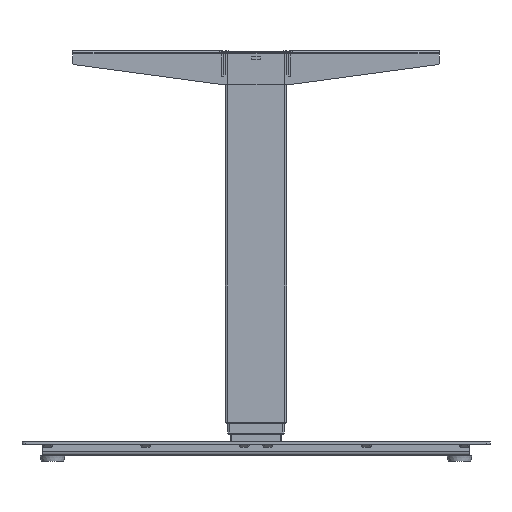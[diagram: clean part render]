
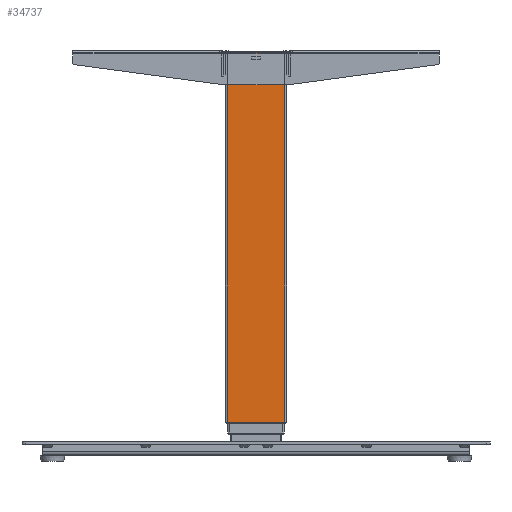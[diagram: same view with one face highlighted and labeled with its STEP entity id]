
A CAD part, front view. The second image highlights one B-rep face of the part: STEP entity #34737.
In plain terms, the highlighted planar face has unit normal (0, -1, 0).
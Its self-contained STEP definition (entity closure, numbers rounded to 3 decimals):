
#2586=CIRCLE('',#38947,0.5);
#2587=CIRCLE('',#38948,0.5);
#2588=CIRCLE('',#38949,0.5);
#2589=CIRCLE('',#38950,0.5);
#9697=ORIENTED_EDGE('',*,*,#16199,.T.);
#9698=ORIENTED_EDGE('',*,*,#16158,.F.);
#9699=ORIENTED_EDGE('',*,*,#16196,.F.);
#9700=ORIENTED_EDGE('',*,*,#16195,.F.);
#9701=ORIENTED_EDGE('',*,*,#16200,.F.);
#9702=ORIENTED_EDGE('',*,*,#16201,.F.);
#9703=ORIENTED_EDGE('',*,*,#16202,.F.);
#9704=ORIENTED_EDGE('',*,*,#16203,.F.);
#9705=ORIENTED_EDGE('',*,*,#16204,.F.);
#9706=ORIENTED_EDGE('',*,*,#16205,.F.);
#9707=ORIENTED_EDGE('',*,*,#16206,.F.);
#9708=ORIENTED_EDGE('',*,*,#16207,.F.);
#16158=EDGE_CURVE('',#21218,#21217,#25249,.T.);
#16195=EDGE_CURVE('',#21252,#21245,#25270,.T.);
#16196=EDGE_CURVE('',#21245,#21218,#25271,.T.);
#16199=EDGE_CURVE('',#21252,#21217,#25273,.T.);
#16200=EDGE_CURVE('',#21253,#21254,#25274,.T.);
#16201=EDGE_CURVE('',#21255,#21253,#2586,.T.);
#16202=EDGE_CURVE('',#21256,#21255,#25275,.T.);
#16203=EDGE_CURVE('',#21257,#21256,#2587,.T.);
#16204=EDGE_CURVE('',#21258,#21257,#25276,.T.);
#16205=EDGE_CURVE('',#21259,#21258,#2588,.T.);
#16206=EDGE_CURVE('',#21260,#21259,#25277,.T.);
#16207=EDGE_CURVE('',#21254,#21260,#2589,.T.);
#21217=VERTEX_POINT('',#61215);
#21218=VERTEX_POINT('',#61217);
#21245=VERTEX_POINT('',#61279);
#21252=VERTEX_POINT('',#61292);
#21253=VERTEX_POINT('',#61301);
#21254=VERTEX_POINT('',#61302);
#21255=VERTEX_POINT('',#61304);
#21256=VERTEX_POINT('',#61306);
#21257=VERTEX_POINT('',#61308);
#21258=VERTEX_POINT('',#61310);
#21259=VERTEX_POINT('',#61312);
#21260=VERTEX_POINT('',#61314);
#25249=LINE('',#61218,#29041);
#25270=LINE('',#61293,#29062);
#25271=LINE('',#61295,#29063);
#25273=LINE('',#61299,#29065);
#25274=LINE('',#61300,#29066);
#25275=LINE('',#61305,#29067);
#25276=LINE('',#61309,#29068);
#25277=LINE('',#61313,#29069);
#29041=VECTOR('',#48011,1000.);
#29062=VECTOR('',#48072,1000.);
#29063=VECTOR('',#48075,1000.);
#29065=VECTOR('',#48081,1000.);
#29066=VECTOR('',#48082,1000.);
#29067=VECTOR('',#48085,1000.);
#29068=VECTOR('',#48088,1000.);
#29069=VECTOR('',#48091,1000.);
#31077=EDGE_LOOP('',(#9697,#9698,#9699,#9700));
#31078=EDGE_LOOP('',(#9701,#9702,#9703,#9704,#9705,#9706,#9707,#9708));
#32699=FACE_BOUND('',#31077,.T.);
#32700=FACE_BOUND('',#31078,.T.);
#33534=PLANE('',#38946);
#34737=ADVANCED_FACE('',(#32699,#32700),#33534,.F.);
#38946=AXIS2_PLACEMENT_3D('',#61298,#48079,#48080);
#38947=AXIS2_PLACEMENT_3D('',#61303,#48083,#48084);
#38948=AXIS2_PLACEMENT_3D('',#61307,#48086,#48087);
#38949=AXIS2_PLACEMENT_3D('',#61311,#48089,#48090);
#38950=AXIS2_PLACEMENT_3D('',#61315,#48092,#48093);
#48011=DIRECTION('',(1.,0.,0.));
#48072=DIRECTION('',(-1.,0.,0.));
#48075=DIRECTION('',(0.,0.,1.));
#48079=DIRECTION('',(0.,1.,0.));
#48080=DIRECTION('',(-1.,0.,0.));
#48081=DIRECTION('',(0.,0.,1.));
#48082=DIRECTION('',(0.,0.,1.));
#48083=DIRECTION('',(0.,-1.,0.));
#48084=DIRECTION('',(1.,0.,0.));
#48085=DIRECTION('',(1.,0.,0.));
#48086=DIRECTION('',(0.,-1.,0.));
#48087=DIRECTION('',(1.,0.,0.));
#48088=DIRECTION('',(0.,0.,-1.));
#48089=DIRECTION('',(0.,-1.,0.));
#48090=DIRECTION('',(1.,0.,0.));
#48091=DIRECTION('',(-1.,0.,0.));
#48092=DIRECTION('',(0.,-1.,0.));
#48093=DIRECTION('',(1.,0.,0.));
#61215=CARTESIAN_POINT('',(42.5,-30.,573.7));
#61217=CARTESIAN_POINT('',(-42.5,-30.,573.7));
#61218=CARTESIAN_POINT('',(42.5,-30.,573.7));
#61279=CARTESIAN_POINT('',(-42.5,-30.,28.7));
#61292=CARTESIAN_POINT('',(42.5,-30.,28.7));
#61293=CARTESIAN_POINT('',(-42.5,-30.,28.7));
#61295=CARTESIAN_POINT('',(-42.5,-30.,28.7));
#61298=CARTESIAN_POINT('',(-42.5,-30.,28.7));
#61299=CARTESIAN_POINT('',(42.5,-30.,28.7));
#61300=CARTESIAN_POINT('',(7.,-30.,567.7));
#61301=CARTESIAN_POINT('',(7.,-30.,563.7));
#61302=CARTESIAN_POINT('',(7.,-30.,567.7));
#61303=CARTESIAN_POINT('',(6.5,-30.,563.7));
#61304=CARTESIAN_POINT('',(6.5,-30.,563.2));
#61305=CARTESIAN_POINT('',(6.5,-30.,563.2));
#61306=CARTESIAN_POINT('',(-6.5,-30.,563.2));
#61307=CARTESIAN_POINT('',(-6.5,-30.,563.7));
#61308=CARTESIAN_POINT('',(-7.,-30.,563.7));
#61309=CARTESIAN_POINT('',(-7.,-30.,563.7));
#61310=CARTESIAN_POINT('',(-7.,-30.,567.7));
#61311=CARTESIAN_POINT('',(-6.5,-30.,567.7));
#61312=CARTESIAN_POINT('',(-6.5,-30.,568.2));
#61313=CARTESIAN_POINT('',(-6.5,-30.,568.2));
#61314=CARTESIAN_POINT('',(6.5,-30.,568.2));
#61315=CARTESIAN_POINT('',(6.5,-30.,567.7));
